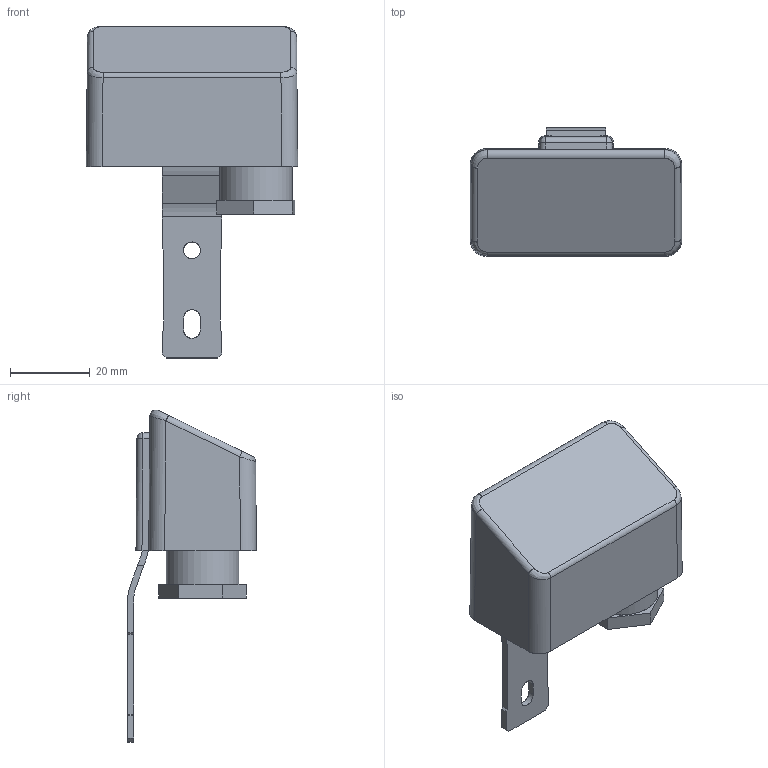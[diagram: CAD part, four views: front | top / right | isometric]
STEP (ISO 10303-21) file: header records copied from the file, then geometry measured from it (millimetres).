
FILE_DESCRIPTION(('STEP AP214'),'2;1');
FILE_NAME('01C61_rev00.stp','2015-01-30T09:18:52',(''),(''),'2007.1.106','THINKDESIGN','');
FILE_SCHEMA(('AUTOMOTIVE_DESIGN'));
Length unit declared in the file: millimetre
Products named in the file (1): top
Bounding box: 53 x 32.3 x 83.26 mm (x, y, z)
Surface area: 12606.9 mm2 (no closed solid volume)
Topology: 0 solids, 0 shells, 100 faces, 517 edges, 512 vertices
Faces by surface type: plane 60, cylinder 30, bspline 10
Full cylindrical faces by diameter (mm): 4.2 x1, 8 x1, 9.4 x1, 10 x2, 15 x1, 18.2 x1
Entity records: 5376 total; most frequent: CARTESIAN_POINT 2379, DIRECTION 644, COMPOSITE_CURVE_SEGMENT 515, TRIMMED_CURVE 403, VECTOR 368, LINE 368, AXIS2_PLACEMENT_3D 138, OUTER_BOUNDARY_CURVE 100
